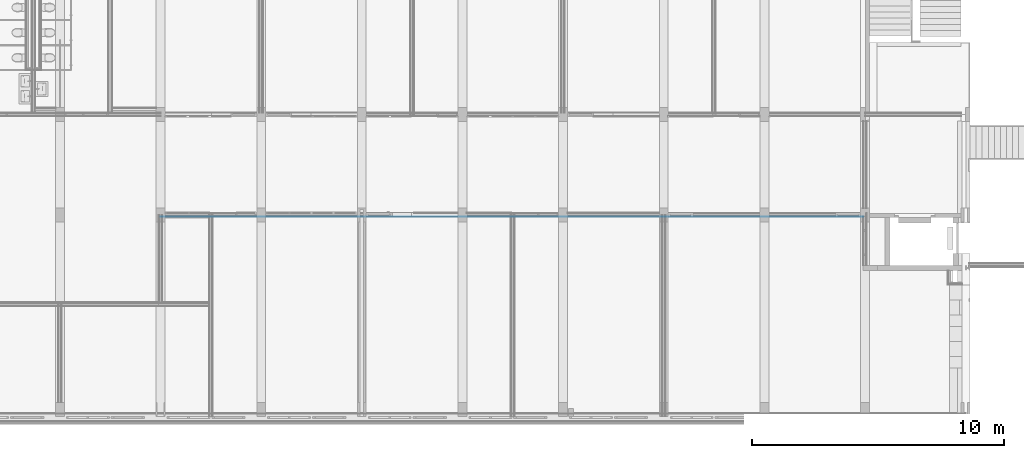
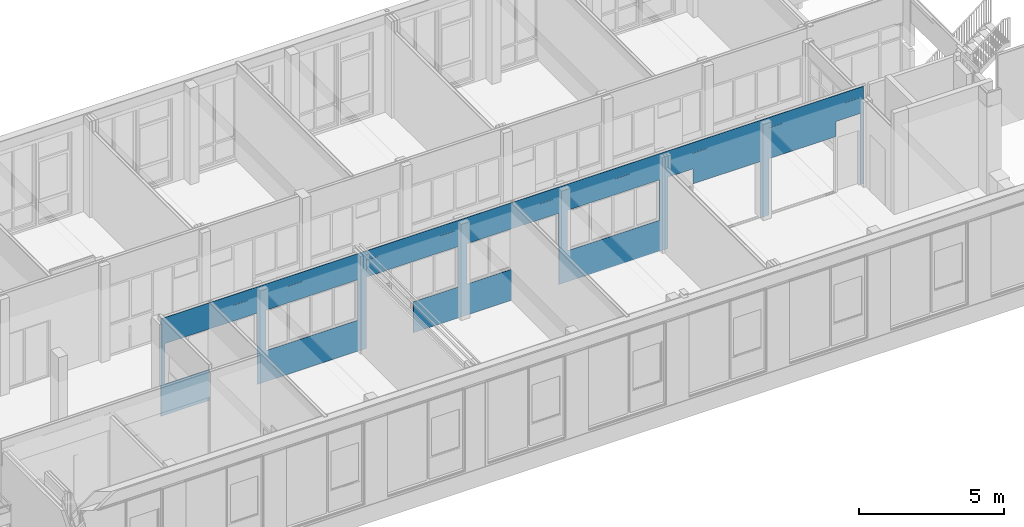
# One storey, part 41 of 94: 1 building element part, 10 openings, 1 element without a shape of its own.
"""IFC2X3 building model written with IfcOpenShell, lengths in millimetres."""

from ifc_helpers import new_model, entity, si_unit, converted_unit, derived_unit, money_unit, direction, frame, origin_with_axes, place, context, subcontext, project, spatial, faceted_brep, material, type_object, element, aggregate, save


model = new_model("IFC2X3")

# Units and contexts
model_context = context("Model", 3, precision=0.01, world=origin_with_axes(), true_north=direction((0.0, 1.0)))
body_context = subcontext(model_context, "Body", "Model", "MODEL_VIEW")
ifc_project = project(units=[si_unit("LENGTHUNIT", "METRE", prefix="MILLI"), si_unit("AREAUNIT", "SQUARE_METRE"), si_unit("VOLUMEUNIT", "CUBIC_METRE"), converted_unit("PLANEANGLEUNIT", "DEGREE", entity("IfcPlaneAngleMeasure", 0.0174532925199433), si_unit("PLANEANGLEUNIT", "RADIAN"), dimensions=[0, 0, 0, 0, 0, 0, 0]), money_unit("EUR"), converted_unit("TIMEUNIT", "Year", entity("IfcTimeMeasure", 31557600.0), si_unit("TIMEUNIT", "SECOND"), dimensions=[0, 0, 1, 0, 0, 0, 0]), si_unit("MASSUNIT", "GRAM", prefix="KILO"), si_unit("THERMODYNAMICTEMPERATUREUNIT", "DEGREE_CELSIUS"), si_unit("LUMINOUSINTENSITYUNIT", "LUMEN"), si_unit("ENERGYUNIT", "JOULE", prefix="MEGA"), derived_unit("THERMALCONDUCTANCEUNIT", [(si_unit("POWERUNIT", "WATT"), 1), (si_unit("LENGTHUNIT", "METRE"), -1), (si_unit("THERMODYNAMICTEMPERATUREUNIT", "KELVIN"), -1)]), derived_unit("SPECIFICHEATCAPACITYUNIT", [(si_unit("ENERGYUNIT", "JOULE"), 1), (si_unit("MASSUNIT", "GRAM", prefix="KILO"), -1), (si_unit("THERMODYNAMICTEMPERATUREUNIT", "KELVIN"), -1)]), derived_unit("MASSDENSITYUNIT", [(si_unit("MASSUNIT", "GRAM", prefix="KILO"), 1), (si_unit("VOLUMEUNIT", "CUBIC_METRE"), -1)])], contexts=[model_context])

# Site, building, storey
site_placement = place(None, origin_with_axes())
site = spatial("IfcSite", under=ifc_project, at=site_placement, Name="<site naam>", CompositionType="ELEMENT")
building_placement = place(site_placement, origin_with_axes())
building = spatial("IfcBuilding", under=site, at=building_placement, Name="<Naam gebouw>", CompositionType="ELEMENT")
storey_placement = place(building_placement, frame((0.0, 0.0, 4250.0), z_axis=(0.0, 0.0, 1.0), x_axis=(1.0, 0.0, 0.0)))
storey = spatial("IfcBuildingStorey", under=building, at=storey_placement, Name="01 1e verdieping", CompositionType="ELEMENT", Elevation=4250.0)

# Wall, openings, building element part
wall_type = type_object("IfcWallType", Name="MS-01 GF 150 ECO DGS/2.100.2.A 150", PredefinedType="NOTDEFINED")
wall_placement = place(storey_placement, frame((20000.00000000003, 8000.000000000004, 0.0), z_axis=(0.0, 0.0, 1.0), x_axis=(1.0, 0.0, 0.0)))
wall = element("IfcWall", 1, at=wall_placement, inside=storey, type_object=wall_type, Name="22_Binnenwand_MS-01")
opening_1_placement = place(wall_placement, frame((5999.950000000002, 0.0, 1300.0), z_axis=(0.0, 0.0, 1.0), x_axis=(1.0, 0.0, 0.0)))
element("IfcOpeningElement", 2, at=opening_1_placement, cuts=wall, Name="22_BI-E-01_305", context=body_context, shape_type="Brep", body=[
    faceted_brep([(-1824.950000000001, -76.00000000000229, 1700.0), (-1824.950000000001, -76.00000000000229, 0.0), (1824.950000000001, -76.00000000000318, 0.0), (1824.950000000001, -76.00000000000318, 1700.0), (-1824.950000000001, 76.00000000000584, 1700.0), (-1824.950000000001, 76.00000000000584, 0.0), (1824.950000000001, 76.00000000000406, 0.0), (1824.950000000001, 76.00000000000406, 1700.0)], [[[0, 1, 2, 3]], [[4, 5, 1, 0]], [[5, 6, 2, 1]], [[6, 7, 3, 2]], [[7, 4, 0, 3]], [[6, 5, 4, 7]]]),
])
opening_2_placement = place(wall_placement, frame((10900.0, 0.0, 1300.0), z_axis=(0.0, 0.0, 1.0), x_axis=(1.0, 0.0, 0.0)))
element("IfcOpeningElement", 3, at=opening_2_placement, cuts=wall, Name="22_BI-E-01_305", context=body_context, shape_type="Brep", body=[
    faceted_brep([(-925.0000000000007, -76.00000000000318, 1700.0), (-925.0000000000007, -76.00000000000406, 0.0), (925.0000000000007, -76.00000000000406, 0.0), (925.0000000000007, -76.00000000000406, 1700.0), (-925.0000000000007, 76.00000000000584, 1700.0), (-925.0000000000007, 76.00000000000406, 0.0), (925.0000000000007, 76.00000000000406, 0.0), (925.0000000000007, 76.00000000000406, 1700.0)], [[[0, 1, 2, 3]], [[4, 5, 1, 0]], [[5, 6, 2, 1]], [[6, 7, 3, 2]], [[7, 4, 0, 3]], [[6, 5, 4, 7]]]),
])
opening_3_placement = place(wall_placement, frame((17999.95, 0.0, 1300.0), z_axis=(0.0, 0.0, 1.0), x_axis=(1.0, 0.0, 0.0)))
element("IfcOpeningElement", 4, at=opening_3_placement, cuts=wall, Name="22_BI-E-01_305", context=body_context, shape_type="Brep", body=[
    faceted_brep([(-1824.950000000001, -76.00000000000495, 1700.0), (-1824.950000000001, -76.00000000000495, 0.0), (1824.950000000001, -76.00000000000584, 0.0), (1824.950000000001, -76.00000000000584, 1700.0), (-1824.950000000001, 76.00000000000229, 1700.0), (-1824.950000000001, 76.00000000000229, 0.0), (1824.950000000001, 76.00000000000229, 0.0), (1824.950000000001, 76.00000000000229, 1700.0)], [[[0, 1, 2, 3]], [[4, 5, 1, 0]], [[5, 6, 2, 1]], [[6, 7, 3, 2]], [[7, 4, 0, 3]], [[6, 5, 4, 7]]]),
])
opening_4_placement = place(wall_placement, frame((20667.0, 0.0, 0.0), z_axis=(0.0, 0.0, 1.0), x_axis=(1.0, 0.0, 0.0)))
element("IfcOpeningElement", 5, at=opening_4_placement, cuts=wall, Name="22_BI-E-04_305", context=body_context, shape_type="Brep", body=[
    faceted_brep([(-491.9999999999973, -76.00000000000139, 3000.0), (-491.9999999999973, -76.00000000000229, 0.0), (491.9999999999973, -76.00000000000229, 0.0), (491.9999999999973, -76.00000000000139, 3000.0), (-491.9999999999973, 75.99999999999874, 3000.0), (-491.9999999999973, 75.99999999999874, 0.0), (491.9999999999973, 75.99999999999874, 0.0), (491.9999999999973, 75.99999999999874, 3000.0)], [[[0, 1, 2, 3]], [[4, 5, 1, 0]], [[5, 6, 2, 1]], [[6, 7, 3, 2]], [[7, 4, 0, 3]], [[6, 5, 4, 7]]]),
])
opening_5_placement = place(wall_placement, frame((9108.499962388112, 0.0, 0.0), z_axis=(0.0, 0.0, 1.0), x_axis=(1.0, 0.0, 0.0)))
element("IfcOpeningElement", 6, at=opening_5_placement, cuts=wall, Name="22_BI-E-02_305", context=body_context, shape_type="Brep", body=[
    faceted_brep([(-933.4999999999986, -76.00000000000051, 3000.0), (-933.4999999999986, -76.00000000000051, 0.0), (933.4999999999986, -76.00000000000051, 0.0), (933.4999999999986, -76.00000000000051, 3000.0), (-933.4999999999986, 75.99999999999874, 3000.0), (-933.4999999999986, 75.99999999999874, 0.0), (933.4999999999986, 75.99999999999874, 0.0), (933.4999999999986, 75.99999999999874, 3000.0)], [[[0, 1, 2, 3]], [[4, 5, 1, 0]], [[5, 6, 2, 1]], [[6, 7, 3, 2]], [[7, 4, 0, 3]], [[6, 5, 4, 7]]]),
])
opening_6_placement = place(wall_placement, frame((1999.999999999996, 0.0, 0.0), z_axis=(0.0, 0.0, 1.0), x_axis=(1.0, 0.0, 0.0)))
element("IfcOpeningElement", 7, at=opening_6_placement, cuts=wall, Name="22_BI-E-03_305", context=body_context, shape_type="Brep", body=[
    faceted_brep([(-1825.000000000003, -76.00000000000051, 3000.0), (-1825.000000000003, -76.00000000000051, 1300.0), (-58.86501235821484, -76.00000000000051, 1300.0), (-58.86501235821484, -76.00000000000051, 0.0), (1825.000000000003, -76.00000000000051, 0.0), (1825.000000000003, -76.00000000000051, 3000.0), (-1825.000000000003, 75.99999999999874, 3000.0), (-1825.000000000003, 75.99999999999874, 1300.0), (-58.86501235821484, 75.99999999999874, 1300.0), (-58.86501235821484, 75.99999999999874, 0.0), (1825.000000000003, 75.99999999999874, 0.0), (1825.000000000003, 75.99999999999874, 3000.0)], [[[0, 1, 2, 3, 4, 5]], [[6, 7, 1, 0]], [[7, 8, 2, 1]], [[8, 9, 3, 2]], [[9, 10, 4, 3]], [[10, 11, 5, 4]], [[11, 6, 0, 5]], [[8, 7, 6, 11, 10, 9]]]),
])
opening_7_placement = place(wall_placement, frame((22491.99999999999, 0.0, 0.0), z_axis=(0.0, 0.0, 1.0), x_axis=(1.0, 0.0, 0.0)))
element("IfcOpeningElement", 8, at=opening_7_placement, cuts=wall, Name="22_vitrine_305", context=body_context, shape_type="Brep", body=[
    faceted_brep([(-1333.000000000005, -76.00000000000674, 2367.0), (-1333.000000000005, -76.00000000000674, 0.0), (1333.000000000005, -76.00000000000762, 0.0), (1333.000000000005, -76.00000000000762, 2367.0), (-1333.000000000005, 76.00000000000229, 2367.0), (-1333.000000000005, 76.00000000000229, 0.0), (1333.000000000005, 76.00000000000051, 0.0), (1333.000000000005, 76.00000000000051, 2367.0)], [[[0, 1, 2, 3]], [[4, 5, 1, 0]], [[5, 6, 2, 1]], [[6, 7, 3, 2]], [[7, 4, 0, 3]], [[6, 5, 4, 7]]]),
])
opening_8_placement = place(wall_placement, frame((27333.0, 0.0, 0.0), z_axis=(0.0, 0.0, 1.0), x_axis=(1.0, 0.0, 0.0)))
element("IfcOpeningElement", 9, at=opening_8_placement, cuts=wall, Name="22_BI-E-04 sp_305", context=body_context, shape_type="Brep", body=[
    faceted_brep([(-491.9999999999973, -76.00000000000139, 3000.0), (-491.9999999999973, -76.00000000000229, 0.0), (491.9999999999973, -76.00000000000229, 0.0), (491.9999999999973, -76.00000000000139, 3000.0), (-491.9999999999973, 75.99999999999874, 3000.0), (-491.9999999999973, 75.99999999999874, 0.0), (491.9999999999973, 75.99999999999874, 0.0), (491.9999999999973, 75.99999999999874, 3000.0)], [[[0, 1, 2, 3]], [[4, 5, 1, 0]], [[5, 6, 2, 1]], [[6, 7, 3, 2]], [[7, 4, 0, 3]], [[6, 5, 4, 7]]]),
])
opening_9_placement = place(wall_placement, frame((25508.0, 0.0, 0.0), z_axis=(0.0, 0.0, 1.0), x_axis=(1.0, 0.0, 0.0)))
element("IfcOpeningElement", 10, at=opening_9_placement, cuts=wall, Name="22_vitrine_305", context=body_context, shape_type="Brep", body=[
    faceted_brep([(-1333.000000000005, -76.0000000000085, 2367.0), (-1333.000000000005, -76.0000000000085, 0.0), (1333.000000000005, -76.0000000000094, 0.0), (1333.000000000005, -76.0000000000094, 2367.0), (-1333.000000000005, 76.00000000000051, 2367.0), (-1333.000000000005, 76.00000000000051, 0.0), (1333.000000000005, 75.99999999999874, 0.0), (1333.000000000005, 75.99999999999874, 2367.0)], [[[0, 1, 2, 3]], [[4, 5, 1, 0]], [[5, 6, 2, 1]], [[6, 7, 3, 2]], [[7, 4, 0, 3]], [[6, 5, 4, 7]]]),
])
opening_10_placement = place(wall_placement, frame((14000.0, 0.0, 0.0), z_axis=(0.0, 0.0, 1.0), x_axis=(1.0, 0.0, 0.0)))
element("IfcOpeningElement", 11, at=opening_10_placement, cuts=wall, Name="22_BI-E-03_305", context=body_context, shape_type="Brep", body=[
    faceted_brep([(-1825.000000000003, -76.00000000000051, 3000.0), (-1825.000000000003, -76.00000000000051, 1300.0), (-58.86501235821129, -76.00000000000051, 1300.0), (-58.86501235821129, -76.00000000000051, 0.0), (1825.000000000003, -76.00000000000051, 0.0), (1825.000000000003, -76.00000000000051, 3000.0), (-1825.000000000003, 75.99999999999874, 3000.0), (-1825.000000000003, 75.99999999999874, 1300.0), (-58.86501235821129, 75.99999999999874, 1300.0), (-58.86501235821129, 75.99999999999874, 0.0), (1825.000000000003, 75.99999999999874, 0.0), (1825.000000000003, 75.99999999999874, 3000.0)], [[[0, 1, 2, 3, 4, 5]], [[6, 7, 1, 0]], [[7, 8, 2, 1]], [[8, 9, 3, 2]], [[9, 10, 4, 3]], [[10, 11, 5, 4]], [[11, 6, 0, 5]], [[8, 7, 6, 11, 10, 9]]]),
])
ifc_material = material(Name="gipsplaat")
building_element_part_placement = place(wall_placement, origin_with_axes())
building_element_part = element("IfcBuildingElementPart", 12, at=building_element_part_placement, material=ifc_material, Name="gipsplaat", context=body_context, shape_type="Brep", body=[
    faceted_brep([(27824.84546316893, -74.99999999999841, 3.000000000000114), (27824.84546316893, -74.99999999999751, 0.0), (27937.49999999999, -74.99999999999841, 0.0), (27937.49999999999, -74.99999999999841, 4100.0), (0.0, -75.00000000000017, 4100.0), (0.0, -75.00000000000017, 0.0), (2075.011266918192, -75.00000000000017, 0.0), (2075.011266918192, -75.00000000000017, 3.000000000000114), (3065.428474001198, -75.00000000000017, 3.000000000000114), (3065.428474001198, -75.00000000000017, 0.0), (20174.84544567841, -74.99999999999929, 0.0), (20174.84544567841, -74.99999999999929, 3.000000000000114), (21233.16318385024, -74.99999999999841, 3.000000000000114), (21233.16318385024, -74.99999999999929, 0.0), (26802.24525226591, -74.99999999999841, 0.0), (26802.24525226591, -74.99999999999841, 3.000000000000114), (8174.999962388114, -74.99999999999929, 1.999999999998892), (8174.999962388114, -74.99999999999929, 4.999999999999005), (10081.0, -74.99999999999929, 4.999999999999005), (10081.0, -74.99999999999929, 1.999999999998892), (14075.00014170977, -74.99999999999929, 19.99999999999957), (14075.00014170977, -74.99999999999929, 22.99999999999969), (15067.27063228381, -74.99999999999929, 22.99999999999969), (15067.27063228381, -74.99999999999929, 19.99999999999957), (2075.011488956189, -75.00000000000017, 3660.0), (2075.011488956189, -75.00000000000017, 3700.0), (3825.000064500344, -75.00000000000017, 3700.0), (3825.000064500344, -75.00000000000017, 3660.0), (14075.00016104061, -74.99999999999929, 3660.0), (14075.00016104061, -74.99999999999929, 3700.0), (15824.99987737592, -74.99999999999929, 3700.0), (15824.99987737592, -74.99999999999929, 3660.0), (8175.000007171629, -75.00000000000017, 3700.0), (8175.000007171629, -74.99999999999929, 3740.0), (11824.99995019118, -74.99999999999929, 3740.0), (11824.99995019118, -74.99999999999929, 3700.0), (20175.00018324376, -74.99999999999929, 3660.0), (20175.00018324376, -74.99999999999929, 3700.0), (23825.00000778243, -74.99999999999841, 3700.0), (23825.00000778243, -74.99999999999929, 3660.0), (24175.00006586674, -74.99999999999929, 3660.0), (24175.00006586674, -74.99999999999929, 3700.0), (27824.99997890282, -74.99999999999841, 3700.0), (27824.99997890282, -74.99999999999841, 3660.0), (4175.000052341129, -75.00000000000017, 3700.0), (4175.000052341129, -75.00000000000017, 3740.0), (7824.999946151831, -75.00000000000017, 3740.0), (7824.999946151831, -74.99999999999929, 3700.0), (12174.99993805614, -74.99999999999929, 3700.0), (12174.99993805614, -74.99999999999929, 3740.0), (13925.00012161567, -74.99999999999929, 3740.0), (13925.00012161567, -74.99999999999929, 3700.0), (16174.99999066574, -74.99999999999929, 3660.0), (16174.99999066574, -74.99999999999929, 3700.0), (19825.00006176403, -74.99999999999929, 3700.0), (19825.00006176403, -74.99999999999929, 3660.0), (27824.84546316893, -62.49999999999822, 3.000000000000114), (27824.84546316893, -62.49999999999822, 0.0), (27937.49999999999, -62.49999999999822, 0.0), (27937.49999999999, -62.49999999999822, 4100.0), (0.0, -62.5, 4100.0), (0.0, -62.5, 0.0), (2075.011284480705, -62.5, 0.0), (2075.011284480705, -62.49999999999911, 3.000000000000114), (3065.428474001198, -62.5, 3.000000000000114), (3065.428474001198, -62.5, 0.0), (20174.84544567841, -62.49999999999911, 0.0), (20174.84544567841, -62.49999999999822, 3.000000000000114), (21233.16318385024, -62.49999999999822, 3.000000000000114), (21233.16318385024, -62.49999999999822, 0.0), (26802.24525226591, -62.49999999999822, 0.0), (26802.24525226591, -62.49999999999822, 3.000000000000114), (8174.999962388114, -62.49999999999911, 1.999999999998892), (8174.999962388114, -62.49999999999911, 4.999999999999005), (10081.0, -62.49999999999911, 4.999999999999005), (10081.0, -62.49999999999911, 1.999999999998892), (14075.00014170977, -62.49999999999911, 19.99999999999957), (14075.00014170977, -62.49999999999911, 22.99999999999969), (15067.27063228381, -62.49999999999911, 22.99999999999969), (15067.27063228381, -62.49999999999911, 19.99999999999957), (2075.011488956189, -73.31008859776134, 3660.0), (2075.011488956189, -73.31008859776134, 3700.0), (3825.000064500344, -73.31008859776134, 3700.0), (3825.000064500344, -73.31008859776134, 3660.0), (14075.00016104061, -73.31013708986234, 3660.0), (14075.00016104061, -73.31013708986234, 3700.0), (15824.99987737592, -73.31013708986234, 3700.0), (15824.99987737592, -73.31013708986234, 3660.0), (8175.000007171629, -73.31008859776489, 3700.0), (8175.000007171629, -73.31008859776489, 3740.0), (11824.99995019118, -73.31008859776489, 3740.0), (11824.99995019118, -73.31008859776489, 3700.0), (20175.00018324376, -73.31014638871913, 3660.0), (20175.00018324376, -73.31014638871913, 3700.0), (23825.00000778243, -73.31014638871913, 3700.0), (23825.00000778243, -73.31014638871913, 3660.0), (24175.00006586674, -73.31008569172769, 3660.0), (24175.00006586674, -73.31008569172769, 3700.0), (27824.99997889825, -73.31008569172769, 3700.0), (27824.99997889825, -73.31008569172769, 3660.0), (4175.000052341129, -73.3133986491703, 3700.0), (4175.000052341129, -73.3133986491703, 3740.0), (7824.999946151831, -73.3133986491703, 3740.0), (7824.999946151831, -73.3133986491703, 3700.0), (12174.99993803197, -73.31008859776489, 3700.0), (12174.99993803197, -73.31008859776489, 3740.0), (13925.00012161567, -73.31008859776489, 3740.0), (13925.00012161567, -73.31008859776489, 3700.0), (16174.99999066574, -73.31013708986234, 3660.0), (16174.99999066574, -73.31013708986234, 3700.0), (19825.00006176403, -73.31013708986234, 3700.0), (19825.00006176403, -73.31013708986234, 3660.0)], [[[0, 1, 2, 3, 4, 5, 6, 7, 8, 9, 10, 11, 12, 13, 14, 15], [16, 17, 18, 19], [20, 21, 22, 23], [24, 25, 26, 27], [28, 29, 30, 31], [32, 33, 34, 35], [36, 37, 38, 39], [40, 41, 42, 43], [44, 45, 46, 47], [48, 49, 50, 51], [52, 53, 54, 55]], [[56, 57, 1, 0]], [[1, 57, 58, 2]], [[2, 58, 59, 3]], [[3, 59, 60, 4]], [[60, 61, 5, 4]], [[62, 6, 5, 61]], [[62, 63, 7, 6]], [[63, 64, 8, 7]], [[64, 65, 9, 8]], [[66, 10, 9, 65]], [[66, 67, 11, 10]], [[67, 68, 12, 11]], [[68, 69, 13, 12]], [[70, 14, 13, 69]], [[70, 71, 15, 14]], [[71, 56, 0, 15]], [[72, 73, 17, 16]], [[73, 74, 18, 17]], [[74, 75, 19, 18]], [[75, 72, 16, 19]], [[76, 77, 21, 20]], [[77, 78, 22, 21]], [[78, 79, 23, 22]], [[79, 76, 20, 23]], [[25, 24, 80, 81]], [[26, 25, 81, 82]], [[27, 26, 82, 83]], [[24, 27, 83, 80]], [[29, 28, 84, 85]], [[30, 29, 85, 86]], [[31, 30, 86, 87]], [[28, 31, 87, 84]], [[33, 32, 88, 89]], [[34, 33, 89, 90]], [[35, 34, 90, 91]], [[32, 35, 91, 88]], [[37, 36, 92, 93]], [[38, 37, 93, 94]], [[39, 38, 94, 95]], [[36, 39, 95, 92]], [[41, 40, 96, 97]], [[42, 41, 97, 98]], [[43, 42, 98, 99]], [[40, 43, 99, 96]], [[45, 44, 100, 101]], [[46, 45, 101, 102]], [[47, 46, 102, 103]], [[44, 47, 103, 100]], [[49, 48, 104, 105]], [[50, 49, 105, 106]], [[51, 50, 106, 107]], [[48, 51, 107, 104]], [[53, 52, 108, 109]], [[54, 53, 109, 110]], [[55, 54, 110, 111]], [[52, 55, 111, 108]], [[71, 70, 69, 68, 67, 66, 65, 64, 63, 62, 61, 60, 59, 58, 57, 56], [72, 75, 74, 73], [76, 79, 78, 77]], [[83, 82, 81, 80]], [[87, 86, 85, 84]], [[91, 90, 89, 88]], [[95, 94, 93, 92]], [[99, 98, 97, 96]], [[103, 102, 101, 100]], [[107, 106, 105, 104]], [[111, 110, 109, 108]]]),
])
aggregate(wall, [building_element_part])

save(model, "model.ifc")
